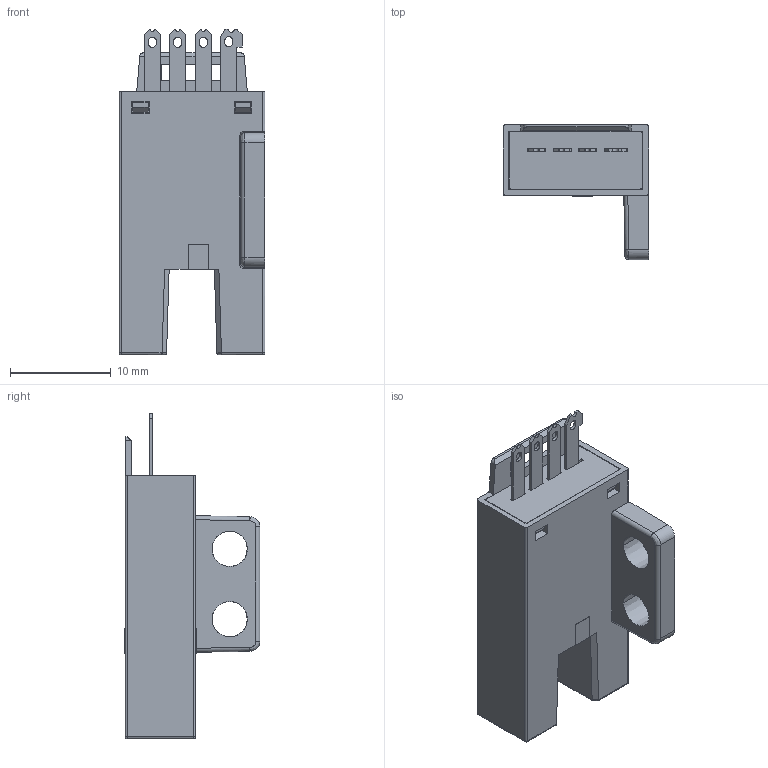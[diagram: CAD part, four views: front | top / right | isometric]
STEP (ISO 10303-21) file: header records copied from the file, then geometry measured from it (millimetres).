
FILE_DESCRIPTION((''),'2;1');
FILE_NAME('SF-302-E_ASM','2018-05-30T',('Gavin'),(''),'PRO/ENGINEER BY PARAMETRIC TECHNOLOGY CORPORATION, 2009440','PRO/ENGINEER BY PARAMETRIC TECHNOLOGY CORPORATION, 2009440','');
FILE_SCHEMA(('CONFIG_CONTROL_DESIGN'));
Length unit declared in the file: millimetre
Products named in the file (14): _X2_63A57EBF5F397247_X0_-90-161; _X2_63A57EBF5F397247_X0_-90-162; _X2_63A57EBF5F397247_X0_-90-163; _X2_63A57EBF5F397247_X0_3-_X2_5; MANIFOLD_SOLID_BREP_165; MANIFOLD_SOLID_BREP_166; _X2_53D151497BA1_X0_-307-167; MANIFOLD_SOLID_BREP_168; _X2_53D151497BA1_X0_-307-169; MANIFOLD_SOLID_BREP_170; MANIFOLD_SOLID_BREP_172; _GAVI16A8FEA7XWTR; GAVI16A8FEA7XWTR_ASM; SF-302-E_ASM
Assembly tree (13 placements, depth 3):
  SF-302-E_ASM
    GAVI16A8FEA7XWTR_ASM
      _X2_63A57EBF5F397247_X0_-90-161
      _X2_63A57EBF5F397247_X0_-90-162
      _X2_63A57EBF5F397247_X0_-90-163
      _X2_63A57EBF5F397247_X0_3-_X2_5
      MANIFOLD_SOLID_BREP_165
      MANIFOLD_SOLID_BREP_166
      _X2_53D151497BA1_X0_-307-167
      MANIFOLD_SOLID_BREP_168
      _X2_53D151497BA1_X0_-307-169
      MANIFOLD_SOLID_BREP_170
      MANIFOLD_SOLID_BREP_172
      _GAVI16A8FEA7XWTR
Bounding box: 14.5 x 13.5 x 32.39 mm (x, y, z)
Volume: 1193.9 mm3; surface area: 3481.1 mm2
Topology: 11 solids, 11 shells, 471 faces, 1299 edges, 863 vertices
Faces by surface type: plane 390, cylinder 68, sphere 6, cone 5, bspline 2
Entity records: 15387 total; most frequent: CARTESIAN_POINT 2886, ORIENTED_EDGE 2590, DIRECTION 2441, EDGE_CURVE 1295, VECTOR 1103, LINE 1103, VERTEX_POINT 863, AXIS2_PLACEMENT_3D 669
